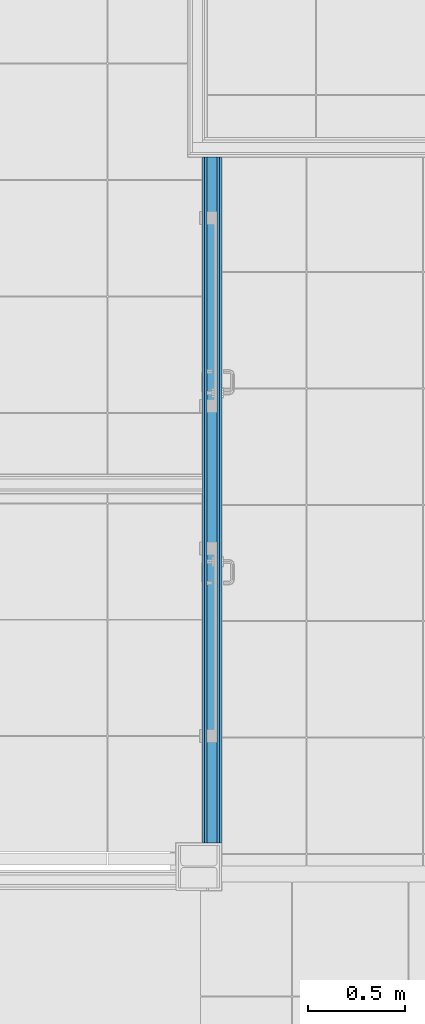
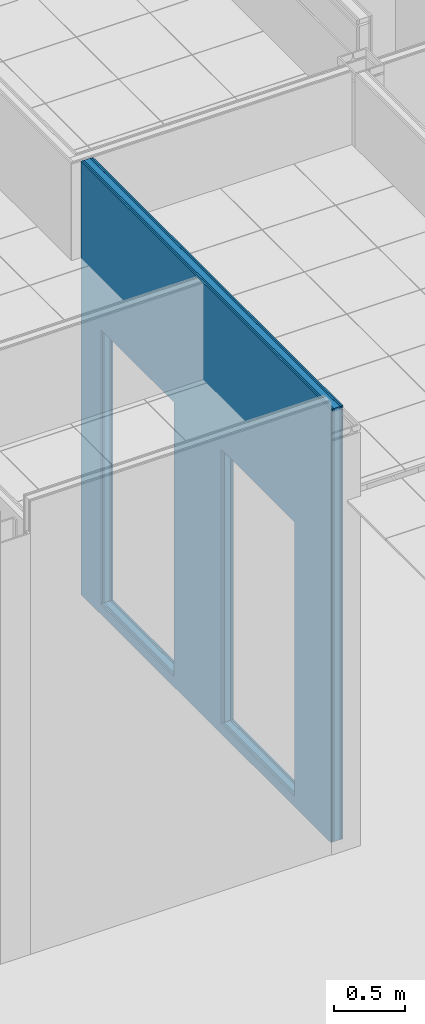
# One storey, part 52 of 338: 5 building element parts, 2 openings, 1 element without a shape of its own.
"""IFC2X3 building model written with IfcOpenShell, lengths in millimetres."""

import ifcopenshell
import ifcopenshell.guid

model = None  # the IFC model being written
_history = None  # IfcOwnerHistory: only IFC2X3 demands one
_inside = {}  # id of a spatial element -> (the spatial element, [elements in it])
_under = {}  # id of a project, library or spatial element -> (it, [spatial elements below it])
_declared = {}  # id of a project -> (the project, [libraries it declares])
_typed = {}  # id of a type object -> (the type object, [elements of that type])
_made_of = {}  # id of a material, layer set ... -> (it, [elements and type objects made of it])


def new_model(schema):
    """Start an empty IFC model of exactly this schema.

    Asked for "IFC4X3", IfcOpenShell would pick the latest addendum, in which some entities
    have other attributes; the version numbers below select the first issue.
    IFC2X3 requires an IfcOwnerHistory on every rooted entity: one is made here for all.
    """
    global model, _history
    if schema == "IFC4X3":
        model = ifcopenshell.file(schema_version=(4, 3, 0, 0))
    else:
        model = ifcopenshell.file(schema=schema)
    _inside.clear()
    _under.clear()
    _declared.clear()
    _typed.clear()
    _made_of.clear()
    _history = None
    if model.schema == "IFC2X3":
        org = make("IfcOrganization", Name="unknown")
        user = make(
            "IfcPersonAndOrganization",
            ThePerson=make("IfcPerson", FamilyName="unknown"),
            TheOrganization=org,
        )
        app = make(
            "IfcApplication",
            ApplicationDeveloper=org,
            Version="unknown",
            ApplicationFullName="unknown",
            ApplicationIdentifier="unknown",
        )
        _history = make(
            "IfcOwnerHistory",
            OwningUser=user,
            OwningApplication=app,
            ChangeAction="ADDED",
            CreationDate=0,
        )
    return model


def make(cls, **values):
    """One entity of the class cls with the attributes given. An attribute that is None is left unset."""
    return model.create_entity(
        cls, **{name: value for name, value in values.items() if value is not None}
    )


def entity(cls, *values):
    """Any entity or typed value of the class cls, its attributes in the order of the schema. None: left unset."""
    e = model.create_entity(cls)
    for i, value in enumerate(values):
        if value is not None:
            e[i] = value
    return e


def rooted(cls, **values):
    """An entity with a GlobalId (a new one), such as an element, a storey or a relation."""
    return make(cls, GlobalId=ifcopenshell.guid.new(), OwnerHistory=_history, **values)


def si_unit(unit_type, name, prefix=None):
    """IfcSIUnit, for example si_unit("LENGTHUNIT", "METRE", prefix="MILLI")."""
    return make("IfcSIUnit", UnitType=unit_type, Prefix=prefix, Name=name)


def converted_unit(unit_type, name, factor, base, dimensions=None, offset=None):
    """IfcConversionBasedUnit, such as the inch: factor (a typed value) times the base unit."""
    return make(
        "IfcConversionBasedUnit"
        if offset is None
        else "IfcConversionBasedUnitWithOffset",
        ConversionOffset=offset,
        Dimensions=None
        if dimensions is None
        else entity("IfcDimensionalExponents", *dimensions),
        UnitType=unit_type,
        Name=name,
        ConversionFactor=make(
            "IfcMeasureWithUnit", ValueComponent=factor, UnitComponent=base
        ),
    )


def derived_unit(unit_type, elements):
    """IfcDerivedUnit: a product of units, each with its exponent."""
    return make(
        "IfcDerivedUnit",
        Elements=[
            make("IfcDerivedUnitElement", Unit=unit, Exponent=power)
            for unit, power in elements
        ],
        UnitType=unit_type,
    )


def money_unit(currency):
    """IfcMonetaryUnit."""
    return make("IfcMonetaryUnit", Currency=currency)


def assignment(units):
    """IfcUnitAssignment: the units of a project."""
    return None if units is None else make("IfcUnitAssignment", Units=units)


def point(xyz):
    """IfcCartesianPoint."""
    return None if xyz is None else make("IfcCartesianPoint", Coordinates=xyz)


def direction(xyz):
    """IfcDirection."""
    return None if xyz is None else make("IfcDirection", DirectionRatios=xyz)


def frame(location, z_axis=None, x_axis=None):
    """IfcAxis2Placement3D, a coordinate frame: its origin and axes. An axis left out is left unset."""
    return make(
        "IfcAxis2Placement3D",
        Location=point(location),
        Axis=direction(z_axis),
        RefDirection=direction(x_axis),
    )


def origin_with_axes():
    """The frame at (0, 0, 0) with the z axis (0, 0, 1) and the x axis (1, 0, 0) written out."""
    return frame((0.0, 0.0, 0.0), z_axis=(0.0, 0.0, 1.0), x_axis=(1.0, 0.0, 0.0))


def place(relative_to, where):
    """IfcLocalPlacement: puts the frame where relative to a parent placement (None: the world)."""
    return make(
        "IfcLocalPlacement", PlacementRelTo=relative_to, RelativePlacement=where
    )


def context(
    kind, dimensions, precision=None, world=None, true_north=None, identifier=None
):
    """IfcGeometricRepresentationContext, for example the 3D "Model" context."""
    return make(
        "IfcGeometricRepresentationContext",
        ContextIdentifier=identifier,
        ContextType=kind,
        CoordinateSpaceDimension=dimensions,
        Precision=precision,
        WorldCoordinateSystem=world,
        TrueNorth=true_north,
    )


def subcontext(parent, identifier, kind, view, scale=None):
    """IfcGeometricRepresentationSubContext, for example "Body" below "Model"."""
    return make(
        "IfcGeometricRepresentationSubContext",
        ContextIdentifier=identifier,
        ContextType=kind,
        ParentContext=parent,
        TargetScale=scale,
        TargetView=view,
    )


def project(units=None, contexts=None):
    """IfcProject with its units and contexts."""
    return rooted(
        "IfcProject",
        Name="project",
        RepresentationContexts=contexts,
        UnitsInContext=assignment(units),
    )


def spatial(cls, under=None, at=None, **own):
    """A site, building, storey or space (cls), placed at a placement, below another one or the project."""
    s = rooted(cls, ObjectPlacement=at, **own)
    if under is not None:
        _under.setdefault(under.id(), (under, []))[1].append(s)
    return s


def faces_of(points, faces, orient=None, outer=None):
    """IfcFace entities. A face is a list of loops; a loop is a list of indices into points, from 0.

    orient and outer hold one flag for each loop. By default every Orientation is true, the
    first loop of a face is its IfcFaceOuterBound and the others are IfcFaceBound.
    """
    made = []
    for i, loops in enumerate(faces):
        bounds = []
        for j, loop in enumerate(loops):
            is_outer = j == 0 if outer is None else outer[i][j]
            bounds.append(
                make(
                    "IfcFaceOuterBound" if is_outer else "IfcFaceBound",
                    Bound=make("IfcPolyLoop", Polygon=[points[k] for k in loop]),
                    Orientation=True if orient is None else orient[i][j],
                )
            )
        made.append(make("IfcFace", Bounds=bounds))
    return made


def faceted_brep(points, faces, orient=None, outer=None, voids=None):
    """IfcFacetedBrep: a solid bounded by flat faces; with voids (closed shells), ...WithVoids."""
    shared = [point(p) for p in points]
    hull = make("IfcClosedShell", CfsFaces=faces_of(shared, faces, orient, outer))
    if voids is None:
        return make("IfcFacetedBrep", Outer=hull)
    return make(
        "IfcFacetedBrepWithVoids",
        Outer=hull,
        Voids=[
            make(cls, CfsFaces=faces_of(shared, fs, o, b)) for cls, fs, o, b in voids
        ],
    )


def shape(context_of_items, identifier, shape_type, items):
    """IfcShapeRepresentation: the items that make up one representation, for example the "Body"."""
    return make(
        "IfcShapeRepresentation",
        ContextOfItems=context_of_items,
        RepresentationIdentifier=identifier,
        RepresentationType=shape_type,
        Items=items,
    )


def material(Name=None, Category=None):
    """IfcMaterial."""
    return make("IfcMaterial", Name=Name, Category=Category)


def made_of(thing, what):
    """Note that an element or type object is made of a material, layer set ...; save() writes the relation."""
    if what is not None:
        _made_of.setdefault(what.id(), (what, []))[1].append(thing)
    return thing


def type_object(cls, material=None, **own):
    """A type object (cls), such as IfcWallType, which elements share."""
    return made_of(rooted(cls, **own), material)


def element(
    cls,
    number,
    at=None,
    inside=None,
    cuts=None,
    type_object=None,
    material=None,
    context=None,
    identifier="Body",
    shape_type=None,
    held_by="IfcProductDefinitionShape",
    body=None,
    shapes=None,
    **own,
):
    """One element of the class cls, such as IfcWall. Its Tag is "e" and its number.

    at: its placement. inside: the storey or other place that contains it. cuts: it is an
    opening in that element (IfcRelVoidsElement). A single representation is given by context,
    identifier, shape_type and body (its items); several are given by shapes. held_by: the class
    of the entity that holds the representations. save() writes the other relations.
    """
    e = rooted(cls, Tag="e%d" % number, ObjectPlacement=at, **own)
    if body is not None:
        shapes = [shape(context, identifier, shape_type, body)]
    if shapes is not None:
        e.Representation = make(held_by, Representations=shapes)
    if inside is not None:
        _inside.setdefault(inside.id(), (inside, []))[1].append(e)
    if cuts is not None:
        rooted(
            "IfcRelVoidsElement", RelatingBuildingElement=cuts, RelatedOpeningElement=e
        )
    if type_object is not None:
        _typed.setdefault(type_object.id(), (type_object, []))[1].append(e)
    return made_of(e, material)


def aggregate(whole, parts):
    """IfcRelAggregates: a whole, such as a stair, and the parts it consists of."""
    return rooted("IfcRelAggregates", RelatingObject=whole, RelatedObjects=parts)


def save(model, path):
    """Write the relations noted so far, then the file.

    IfcRelAggregates (storeys below a building ...), IfcRelContainedInSpatialStructure (elements
    in a storey), IfcRelDefinesByType, IfcRelAssociatesMaterial and IfcRelDeclares: one each for
    every whole, place, type object, material and project.
    """
    for whole, parts in _under.values():
        aggregate(whole, parts)
    for where, things in _inside.values():
        rooted(
            "IfcRelContainedInSpatialStructure",
            RelatedElements=things,
            RelatingStructure=where,
        )
    for kind, things in _typed.values():
        rooted("IfcRelDefinesByType", RelatedObjects=things, RelatingType=kind)
    for what, things in _made_of.values():
        rooted("IfcRelAssociatesMaterial", RelatedObjects=things, RelatingMaterial=what)
    for by, libraries in _declared.values():
        rooted("IfcRelDeclares", RelatingContext=by, RelatedDefinitions=libraries)
    model.write(path)


model = new_model("IFC2X3")

# Units and contexts
model_context = context("Model", 3, precision=0.01, world=origin_with_axes(), true_north=direction((0.0, 1.0)))
plan_context = context("Plan", 3, precision=0.01, world=origin_with_axes(), true_north=direction((0.0, 1.0)))
body_context = subcontext(model_context, "Body", "Model", "MODEL_VIEW")
ifc_project = project(units=[si_unit("LENGTHUNIT", "METRE", prefix="MILLI"), si_unit("AREAUNIT", "SQUARE_METRE"), si_unit("VOLUMEUNIT", "CUBIC_METRE"), converted_unit("PLANEANGLEUNIT", "DEGREE", entity("IfcPlaneAngleMeasure", 0.0174532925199), si_unit("PLANEANGLEUNIT", "RADIAN"), dimensions=[0, 0, 0, 0, 0, 0, 0]), money_unit("EUR"), converted_unit("TIMEUNIT", "Year", entity("IfcTimeMeasure", 31556926.0), si_unit("TIMEUNIT", "SECOND"), dimensions=[0, 0, 1, 0, 0, 0, 0]), si_unit("MASSUNIT", "GRAM", prefix="KILO"), si_unit("THERMODYNAMICTEMPERATUREUNIT", "DEGREE_CELSIUS"), si_unit("LUMINOUSINTENSITYUNIT", "LUMEN"), si_unit("ENERGYUNIT", "JOULE", prefix="MEGA"), derived_unit("THERMALCONDUCTANCEUNIT", [(si_unit("POWERUNIT", "WATT"), 1), (si_unit("LENGTHUNIT", "METRE"), -1), (si_unit("THERMODYNAMICTEMPERATUREUNIT", "KELVIN"), -1)]), derived_unit("SPECIFICHEATCAPACITYUNIT", [(si_unit("ENERGYUNIT", "JOULE"), 1), (si_unit("MASSUNIT", "GRAM", prefix="KILO"), -1), (si_unit("THERMODYNAMICTEMPERATUREUNIT", "KELVIN"), -1)]), derived_unit("MASSDENSITYUNIT", [(si_unit("MASSUNIT", "GRAM", prefix="KILO"), 1), (si_unit("VOLUMEUNIT", "CUBIC_METRE"), -1)])], contexts=[model_context, plan_context])

# Site, building, storey
site_placement = place(None, origin_with_axes())
site = spatial("IfcSite", under=ifc_project, at=site_placement, Name="Fortuinstraat Woensdrecht", CompositionType="ELEMENT")
building_placement = place(site_placement, origin_with_axes())
building = spatial("IfcBuilding", under=site, at=building_placement, Name="IKC Fortuna", CompositionType="ELEMENT")
storey_placement = place(building_placement, origin_with_axes())
storey = spatial("IfcBuildingStorey", under=building, at=storey_placement, Name="00 begane grond", CompositionType="ELEMENT", Elevation=0.0)

# Wall, openings, building element parts
wall_type = type_object("IfcWallType", Name="MS100 2.50.2A 100", PredefinedType="NOTDEFINED")
wall_placement = place(storey_placement, frame((23382.9349765, 16304.7966283, -90.0), z_axis=(0.0, 0.0, 1.0), x_axis=(0.0, 1.0, 0.0)))
wall = element("IfcWall", 1, at=wall_placement, inside=storey, type_object=wall_type, Name="22_Wand_Binnenwand")
opening_1_placement = place(wall_placement, frame((1033.11495149, 0.0, 90.0), z_axis=(0.0, 0.0, 1.0), x_axis=(1.0, 0.0, 0.0)))
element("IfcOpeningElement", 2, at=opening_1_placement, cuts=wall, Name="32_Deur_h.01a", context=body_context, shape_type="Brep", body=[
    faceted_brep([(-517.0, 100.0, 2367.0), (-517.0, 100.0, 0.0), (-517.0, -200.0, 0.0), (-517.0, -200.0, 2367.0), (517.0, 100.0, 2367.0), (517.0, 100.0, 0.0), (517.0, -200.0, 0.0), (517.0, -200.0, 2367.0)], [[[0, 1, 2, 3]], [[0, 4, 5, 1]], [[1, 5, 6, 2]], [[3, 2, 6, 7]], [[4, 0, 3, 7]], [[5, 4, 7, 6]]]),
])
opening_2_placement = place(wall_placement, frame((2736.51929388, 0.0, 90.0), z_axis=(0.0, 0.0, 1.0), x_axis=(1.0, 0.0, 0.0)))
element("IfcOpeningElement", 3, at=opening_2_placement, cuts=wall, Name="32_Deur_h.01a", context=body_context, shape_type="Brep", body=[
    faceted_brep([(517.0, -200.0, 2367.0), (517.0, -200.0, 0.0), (517.0, 100.0, 0.0), (517.0, 100.0, 2367.0), (-517.0, -200.0, 2367.0), (-517.0, -200.0, 0.0), (-517.0, 100.0, 0.0), (-517.0, 100.0, 2367.0)], [[[0, 1, 2, 3]], [[0, 4, 5, 1]], [[1, 5, 6, 2]], [[3, 2, 6, 7]], [[4, 0, 3, 7]], [[5, 4, 7, 6]]]),
])
ifc_material_1 = material(Name="Gipsplaat")
building_element_part_1_placement = place(wall_placement, origin_with_axes())
building_element_part_1 = element("IfcBuildingElementPart", 4, at=building_element_part_1_placement, material=ifc_material_1, Name="Gipsplaat", context=body_context, shape_type="Brep", body=[
    faceted_brep([(0.0, 100.0, 3740.0), (3534.96780049, 100.0, 3740.0), (3534.96780049, 100.0, 0.0), (0.0, 100.0, 0.0), (1550.11495149, 100.0, 90.0), (1550.11495149, 100.0, 2457.0), (516.114951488, 100.0, 2457.0), (516.114951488, 100.0, 90.0), (2219.51929388, 100.0, 90.0), (3253.51929388, 100.0, 90.0), (3253.51929388, 100.0, 2457.0), (2219.51929388, 100.0, 2457.0), (0.0, 87.5, 3740.0), (3534.96780049, 87.5, 3740.0), (3534.96780049, 87.5, 0.0), (0.0, 87.5, 0.0), (1550.11495149, 87.5, 2457.0), (1550.11495149, 87.5, 90.0), (516.114951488, 87.5, 2457.0), (516.114951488, 87.5, 90.0), (2219.51929388, 87.5, 90.0), (3253.51929388, 87.5, 90.0), (3253.51929388, 87.5, 2457.0), (2219.51929388, 87.5, 2457.0)], [[[0, 1, 2, 3], [4, 5, 6, 7], [8, 9, 10, 11]], [[12, 13, 1, 0]], [[2, 1, 13, 14]], [[3, 2, 14, 15]], [[3, 15, 12, 0]], [[16, 5, 4, 17]], [[18, 6, 5, 16]], [[19, 7, 6, 18]], [[17, 4, 7, 19]], [[20, 21, 9, 8]], [[21, 22, 10, 9]], [[22, 23, 11, 10]], [[23, 20, 8, 11]], [[15, 14, 13, 12], [18, 16, 17, 19], [20, 23, 22, 21]]]),
])
building_element_part_2_placement = place(wall_placement, origin_with_axes())
building_element_part_2 = element("IfcBuildingElementPart", 5, at=building_element_part_2_placement, material=ifc_material_1, Name="Gipsplaat", context=body_context, shape_type="Brep", body=[
    faceted_brep([(0.0, 87.5, 3740.0), (3534.96780049, 87.5, 3740.0), (3534.96780049, 87.5, 0.0), (0.0, 87.5, 0.0), (1550.11495149, 87.5, 90.0), (1550.11495149, 87.5, 2457.0), (516.114951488, 87.5, 2457.0), (516.114951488, 87.5, 90.0), (2219.51929388, 87.5, 90.0), (3253.51929388, 87.5, 90.0), (3253.51929388, 87.5, 2457.0), (2219.51929388, 87.5, 2457.0), (0.0, 75.0, 3740.0), (3534.96780049, 75.0, 3740.0), (3534.96780049, 75.0, 0.0), (0.0, 75.0, 0.0), (1550.11495149, 75.0, 2457.0), (1550.11495149, 75.0, 90.0), (516.114951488, 75.0, 2457.0), (516.114951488, 75.0, 90.0), (2219.51929388, 75.0, 90.0), (3253.51929388, 75.0, 90.0), (3253.51929388, 75.0, 2457.0), (2219.51929388, 75.0, 2457.0)], [[[0, 1, 2, 3], [4, 5, 6, 7], [8, 9, 10, 11]], [[12, 13, 1, 0]], [[2, 1, 13, 14]], [[3, 2, 14, 15]], [[3, 15, 12, 0]], [[16, 5, 4, 17]], [[18, 6, 5, 16]], [[19, 7, 6, 18]], [[17, 4, 7, 19]], [[20, 21, 9, 8]], [[21, 22, 10, 9]], [[22, 23, 11, 10]], [[23, 20, 8, 11]], [[15, 14, 13, 12], [18, 16, 17, 19], [20, 23, 22, 21]]]),
])
ifc_material_2 = material(Name="Isolatie - Steenwol LSW")
building_element_part_3_placement = place(wall_placement, origin_with_axes())
building_element_part_3 = element("IfcBuildingElementPart", 6, at=building_element_part_3_placement, material=ifc_material_2, Name="Isolatie - Steenwol LSW", context=body_context, shape_type="Brep", body=[
    faceted_brep([(0.0, 75.0, 3740.0), (3534.96780049, 75.0, 3740.0), (3534.96780049, 75.0, 0.0), (0.0, 75.0, 0.0), (1550.11495149, 75.0, 90.0), (1550.11495149, 75.0, 2457.0), (516.114951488, 75.0, 2457.0), (516.114951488, 75.0, 90.0), (2219.51929388, 75.0, 90.0), (3253.51929388, 75.0, 90.0), (3253.51929388, 75.0, 2457.0), (2219.51929388, 75.0, 2457.0), (0.0, 25.0, 3740.0), (3534.96780049, 25.0, 3740.0), (3534.96780049, 25.0, 0.0), (0.0, 25.0, 0.0), (1550.11495149, 25.0, 2457.0), (1550.11495149, 25.0, 90.0), (516.114951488, 25.0, 2457.0), (516.114951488, 25.0, 90.0), (2219.51929388, 25.0, 90.0), (3253.51929388, 25.0, 90.0), (3253.51929388, 25.0, 2457.0), (2219.51929388, 25.0, 2457.0)], [[[0, 1, 2, 3], [4, 5, 6, 7], [8, 9, 10, 11]], [[12, 13, 1, 0]], [[2, 1, 13, 14]], [[3, 2, 14, 15]], [[3, 15, 12, 0]], [[16, 5, 4, 17]], [[18, 6, 5, 16]], [[19, 7, 6, 18]], [[17, 4, 7, 19]], [[20, 21, 9, 8]], [[21, 22, 10, 9]], [[22, 23, 11, 10]], [[23, 20, 8, 11]], [[15, 14, 13, 12], [18, 16, 17, 19], [20, 23, 22, 21]]]),
])
building_element_part_4_placement = place(wall_placement, origin_with_axes())
building_element_part_4 = element("IfcBuildingElementPart", 7, at=building_element_part_4_placement, material=ifc_material_1, Name="Gipsplaat", context=body_context, shape_type="Brep", body=[
    faceted_brep([(0.0, 25.0, 3740.0), (3534.96780049, 25.0, 3740.0), (3534.96780049, 25.0, 0.0), (0.0, 25.0, 0.0), (1550.11495149, 25.0, 90.0), (1550.11495149, 25.0, 2457.0), (516.114951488, 25.0, 2457.0), (516.114951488, 25.0, 90.0), (2219.51929388, 25.0, 90.0), (3253.51929388, 25.0, 90.0), (3253.51929388, 25.0, 2457.0), (2219.51929388, 25.0, 2457.0), (0.0, 12.5, 3740.0), (3534.96780049, 12.5, 3740.0), (3534.96780049, 12.5, 0.0), (0.0, 12.5, 0.0), (1550.11495149, 12.5, 2457.0), (1550.11495149, 12.5, 90.0), (516.114951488, 12.5, 2457.0), (516.114951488, 12.5, 90.0), (2219.51929388, 12.5, 90.0), (3253.51929388, 12.5, 90.0), (3253.51929388, 12.5, 2457.0), (2219.51929388, 12.5, 2457.0)], [[[0, 1, 2, 3], [4, 5, 6, 7], [8, 9, 10, 11]], [[12, 13, 1, 0]], [[2, 1, 13, 14]], [[3, 2, 14, 15]], [[3, 15, 12, 0]], [[16, 5, 4, 17]], [[18, 6, 5, 16]], [[19, 7, 6, 18]], [[17, 4, 7, 19]], [[20, 21, 9, 8]], [[21, 22, 10, 9]], [[22, 23, 11, 10]], [[23, 20, 8, 11]], [[15, 14, 13, 12], [18, 16, 17, 19], [20, 23, 22, 21]]]),
])
building_element_part_5_placement = place(wall_placement, origin_with_axes())
building_element_part_5 = element("IfcBuildingElementPart", 8, at=building_element_part_5_placement, material=ifc_material_1, Name="Gipsplaat", context=body_context, shape_type="Brep", body=[
    faceted_brep([(0.0, 12.5, 3740.0), (3534.96780049, 12.5, 3740.0), (3534.96780049, 12.5, 0.0), (0.0, 12.5, 0.0), (1550.11495149, 12.5, 90.0), (1550.11495149, 12.5, 2457.0), (516.114951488, 12.5, 2457.0), (516.114951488, 12.5, 90.0), (2219.51929388, 12.5, 90.0), (3253.51929388, 12.5, 90.0), (3253.51929388, 12.5, 2457.0), (2219.51929388, 12.5, 2457.0), (0.0, 0.0, 3740.0), (3534.96780049, 0.0, 3740.0), (3534.96780049, 0.0, 0.0), (0.0, 0.0, 0.0), (1550.11495149, 0.0, 2457.0), (1550.11495149, 0.0, 90.0), (516.114951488, 0.0, 2457.0), (516.114951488, 0.0, 90.0), (2219.51929388, 0.0, 90.0), (3253.51929388, 0.0, 90.0), (3253.51929388, 0.0, 2457.0), (2219.51929388, 0.0, 2457.0)], [[[0, 1, 2, 3], [4, 5, 6, 7], [8, 9, 10, 11]], [[12, 13, 1, 0]], [[2, 1, 13, 14]], [[3, 2, 14, 15]], [[3, 15, 12, 0]], [[16, 5, 4, 17]], [[18, 6, 5, 16]], [[19, 7, 6, 18]], [[17, 4, 7, 19]], [[20, 21, 9, 8]], [[21, 22, 10, 9]], [[22, 23, 11, 10]], [[23, 20, 8, 11]], [[15, 14, 13, 12], [18, 16, 17, 19], [20, 23, 22, 21]]]),
])
aggregate(wall, [building_element_part_1, building_element_part_2, building_element_part_3, building_element_part_4, building_element_part_5])

save(model, "model.ifc")
